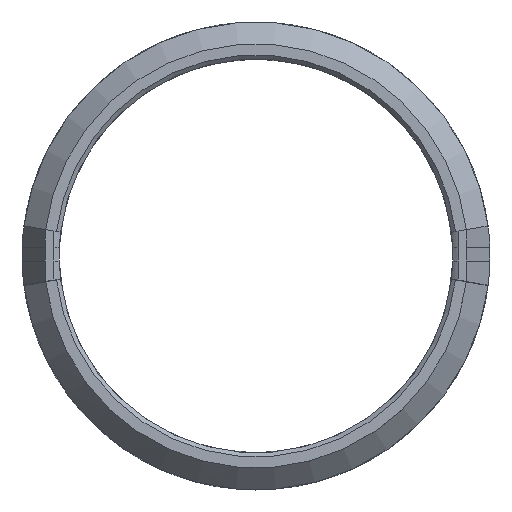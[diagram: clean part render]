
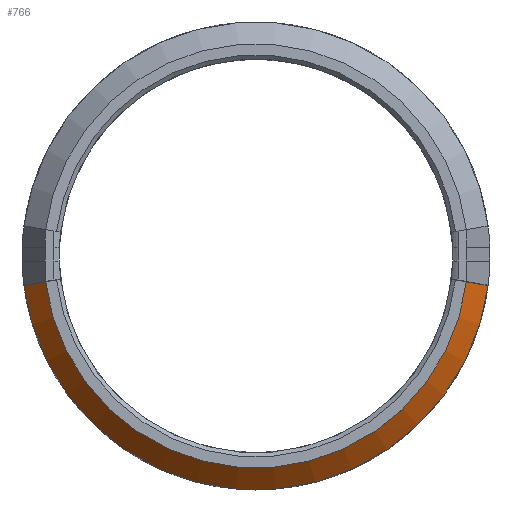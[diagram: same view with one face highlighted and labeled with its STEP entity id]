
A CAD part, top view. The second image highlights one B-rep face of the part: STEP entity #766.
In plain terms, the highlighted conical face has half-angle 45 degrees and reference radius 41 mm.
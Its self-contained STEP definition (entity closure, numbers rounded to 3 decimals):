
#57=(
BOUNDED_CURVE()
B_SPLINE_CURVE(2,(#1681,#1682,#1683),.UNSPECIFIED.,.F.,.F.)
B_SPLINE_CURVE_WITH_KNOTS((3,3),(0.376,0.443),
 .UNSPECIFIED.)
CURVE()
GEOMETRIC_REPRESENTATION_ITEM()
RATIONAL_B_SPLINE_CURVE((2.298,2.412,2.525))
REPRESENTATION_ITEM('')
);
#60=(
BOUNDED_CURVE()
B_SPLINE_CURVE(2,(#1710,#1711,#1712),.UNSPECIFIED.,.F.,.F.)
B_SPLINE_CURVE_WITH_KNOTS((3,3),(0.376,0.443),
 .UNSPECIFIED.)
CURVE()
GEOMETRIC_REPRESENTATION_ITEM()
RATIONAL_B_SPLINE_CURVE((2.298,2.412,2.525))
REPRESENTATION_ITEM('')
);
#66=CONICAL_SURFACE('',#832,41.,0.785);
#100=FACE_OUTER_BOUND('',#141,.T.);
#141=EDGE_LOOP('',(#687,#688,#689,#690));
#303=CIRCLE('',#817,42.5);
#308=CIRCLE('',#831,38.5);
#365=VERTEX_POINT('',#1396);
#366=VERTEX_POINT('',#1398);
#375=VERTEX_POINT('',#1680);
#380=VERTEX_POINT('',#1706);
#460=EDGE_CURVE('',#365,#366,#303,.T.);
#479=EDGE_CURVE('',#375,#366,#57,.F.);
#489=EDGE_CURVE('',#375,#380,#308,.T.);
#491=EDGE_CURVE('',#365,#380,#60,.T.);
#687=ORIENTED_EDGE('',*,*,#460,.F.);
#688=ORIENTED_EDGE('',*,*,#491,.T.);
#689=ORIENTED_EDGE('',*,*,#489,.F.);
#690=ORIENTED_EDGE('',*,*,#479,.T.);
#766=ADVANCED_FACE('',(#100),#66,.T.);
#817=AXIS2_PLACEMENT_3D('',#1399,#937,#938);
#831=AXIS2_PLACEMENT_3D('',#1707,#978,#979);
#832=AXIS2_PLACEMENT_3D('',#1709,#981,#982);
#937=DIRECTION('center_axis',(0.,0.,-1.));
#938=DIRECTION('ref_axis',(1.,0.,0.));
#978=DIRECTION('center_axis',(0.,0.,1.));
#979=DIRECTION('ref_axis',(-1.,0.,0.));
#981=DIRECTION('center_axis',(0.,0.,-1.));
#982=DIRECTION('ref_axis',(-1.,0.,0.));
#1396=CARTESIAN_POINT('',(37.003,25.371,163.047));
#1398=CARTESIAN_POINT('',(-47.307,25.371,163.047));
#1399=CARTESIAN_POINT('Origin',(-5.152,30.773,163.047));
#1680=CARTESIAN_POINT('',(-43.363,26.066,167.047));
#1681=CARTESIAN_POINT('Ctrl Pts',(-47.307,25.371,163.047));
#1682=CARTESIAN_POINT('Ctrl Pts',(-45.238,25.736,165.146));
#1683=CARTESIAN_POINT('Ctrl Pts',(-43.363,26.066,167.047));
#1706=CARTESIAN_POINT('',(33.059,26.066,167.047));
#1707=CARTESIAN_POINT('Origin',(-5.152,30.773,167.047));
#1709=CARTESIAN_POINT('Origin',(-5.152,30.773,164.547));
#1710=CARTESIAN_POINT('Ctrl Pts',(37.003,25.371,163.047));
#1711=CARTESIAN_POINT('Ctrl Pts',(34.934,25.736,165.146));
#1712=CARTESIAN_POINT('Ctrl Pts',(33.059,26.066,167.047));
